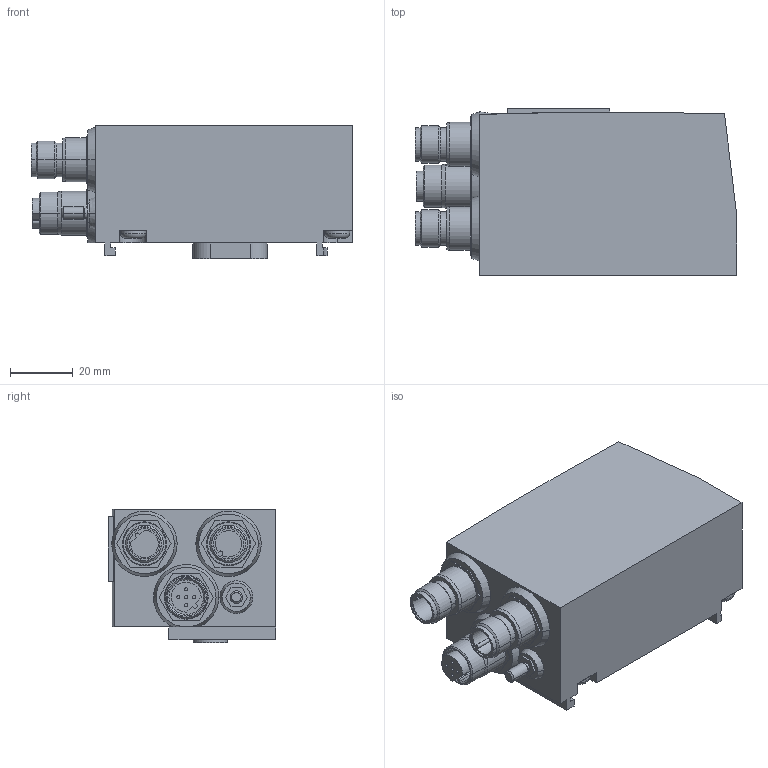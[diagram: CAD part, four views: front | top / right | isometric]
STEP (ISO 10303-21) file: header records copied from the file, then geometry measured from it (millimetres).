
FILE_DESCRIPTION((''),'2;1');
FILE_NAME('R412018218','2017-02-09T',('tng2hc'),(''),'PRO/ENGINEER BY PARAMETRIC TECHNOLOGY CORPORATION, 2012421','PRO/ENGINEER BY PARAMETRIC TECHNOLOGY CORPORATION, 2012421','');
FILE_SCHEMA(('CONFIG_CONTROL_DESIGN','SHAPE_APPEARANCE_LAYERS_GROUPS'));
Length unit declared in the file: millimetre
Products named in the file (1): R412018218
Bounding box: 102.5 x 53.3 x 42.5 mm (x, y, z)
Volume: 167724.6 mm3; surface area: 23504.4 mm2
Topology: 1 solids, 1 shells, 196 faces, 457 edges, 291 vertices
Faces by surface type: plane 100, cylinder 59, cone 31, torus 6
Entity records: 5704 total; most frequent: CARTESIAN_POINT 1015, DIRECTION 1014, ORIENTED_EDGE 914, EDGE_CURVE 457, AXIS2_PLACEMENT_3D 364, VERTEX_POINT 291, VECTOR 286, LINE 286
